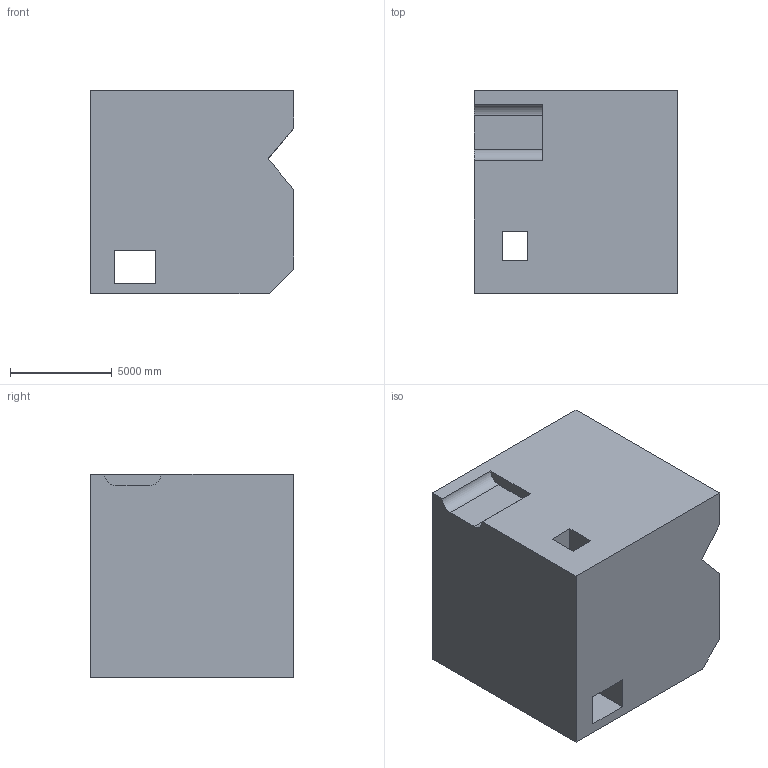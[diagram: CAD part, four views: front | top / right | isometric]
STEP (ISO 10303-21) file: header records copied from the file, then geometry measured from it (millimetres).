
FILE_DESCRIPTION (( 'STEP AP203' ), '1' );
FILE_NAME ('832.STEP', '2022-07-29T13:33:12', ( 'user' ), ( '' ), 'SwSTEP 2.0', 'SolidWorks 2021', '' );
FILE_SCHEMA (( 'CONFIG_CONTROL_DESIGN' ));
Length unit declared in the file: centimetre
Products named in the file (1): 832
Bounding box: 10000 x 10000 x 10000 mm (x, y, z)
Volume: 874900685046.7 mm3; surface area: 800049486.1 mm2
Topology: 2 solids, 2 shells, 51 faces, 144 edges, 96 vertices
Faces by surface type: plane 37, cylinder 14
Entity records: 1752 total; most frequent: CARTESIAN_POINT 322, ORIENTED_EDGE 288, DIRECTION 272, EDGE_CURVE 144, VECTOR 104, LINE 104, VERTEX_POINT 96, AXIS2_PLACEMENT_3D 84
